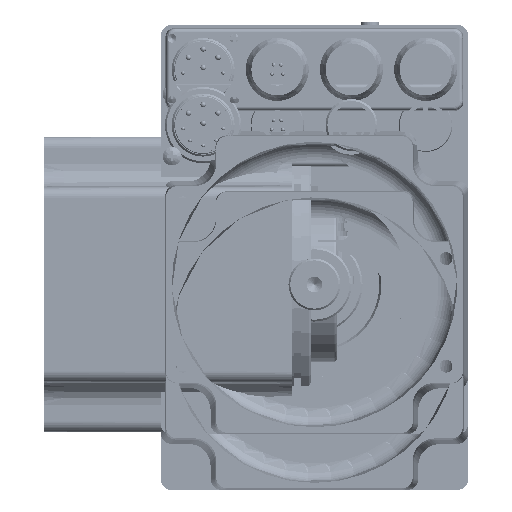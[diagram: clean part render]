
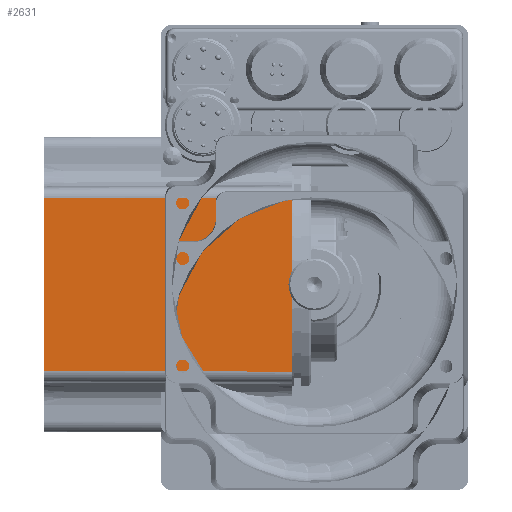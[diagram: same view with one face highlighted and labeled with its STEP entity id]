
A CAD part, front view. The second image highlights one B-rep face of the part: STEP entity #2631.
In plain terms, the highlighted planar face has unit normal (-0.003, -1, 0).
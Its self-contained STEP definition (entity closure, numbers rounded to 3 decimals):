
#2631 = ADVANCED_FACE( '', ( #6636 ), #6637, .T. );
#6636 = FACE_OUTER_BOUND( '', #14176, .T. );
#6637 = PLANE( '', #14177 );
#14176 = EDGE_LOOP( '', ( #30242, #30243, #30244, #30245 ) );
#14177 = AXIS2_PLACEMENT_3D( '', #30246, #30247, #30248 );
#30242 = ORIENTED_EDGE( '', *, *, #40876, .T. );
#30243 = ORIENTED_EDGE( '', *, *, #40877, .T. );
#30244 = ORIENTED_EDGE( '', *, *, #40878, .T. );
#30245 = ORIENTED_EDGE( '', *, *, #40879, .T. );
#30246 = CARTESIAN_POINT( '', ( -5., -40., 0. ) );
#30247 = DIRECTION( '', ( -0.003, -1., 0. ) );
#30248 = DIRECTION( '', ( 1., -0.003, 0. ) );
#40876 = EDGE_CURVE( '', #47721, #47722, #47723, .T. );
#40877 = EDGE_CURVE( '', #47722, #47724, #47725, .T. );
#40878 = EDGE_CURVE( '', #47724, #47726, #47727, .T. );
#40879 = EDGE_CURVE( '', #47726, #47721, #47728, .T. );
#47721 = VERTEX_POINT( '', #67101 );
#47722 = VERTEX_POINT( '', #67102 );
#47723 = LINE( '', #67103, #67104 );
#47724 = VERTEX_POINT( '', #67105 );
#47725 = LINE( '', #67106, #67107 );
#47726 = VERTEX_POINT( '', #67108 );
#47727 = LINE( '', #67109, #67110 );
#47728 = LINE( '', #67111, #67112 );
#67101 = CARTESIAN_POINT( '', ( -73., -39.802, -23.302 ) );
#67102 = CARTESIAN_POINT( '', ( -6., -39.997, -23.497 ) );
#67103 = CARTESIAN_POINT( '', ( -4.991, -40., -23.5 ) );
#67104 = VECTOR( '', #76624, 1000. );
#67105 = CARTESIAN_POINT( '', ( -6., -39.997, 23.497 ) );
#67106 = CARTESIAN_POINT( '', ( -6., -39.997, 0. ) );
#67107 = VECTOR( '', #76625, 1000. );
#67108 = CARTESIAN_POINT( '', ( -73., -39.802, 23.302 ) );
#67109 = CARTESIAN_POINT( '', ( -98.991, -39.727, 23.227 ) );
#67110 = VECTOR( '', #76626, 1000. );
#67111 = CARTESIAN_POINT( '', ( -73., -39.802, 0. ) );
#67112 = VECTOR( '', #76627, 1000. );
#76624 = DIRECTION( '', ( 1., -0.003, -0.003 ) );
#76625 = DIRECTION( '', ( 0., 0., 1. ) );
#76626 = DIRECTION( '', ( -1., 0.003, -0.003 ) );
#76627 = DIRECTION( '', ( 0., 0., -1. ) );
